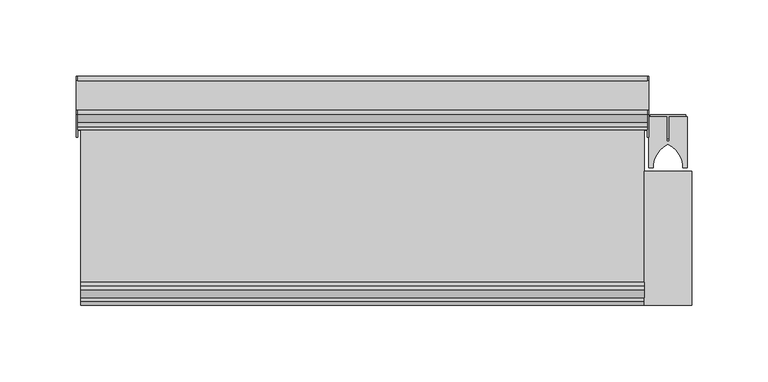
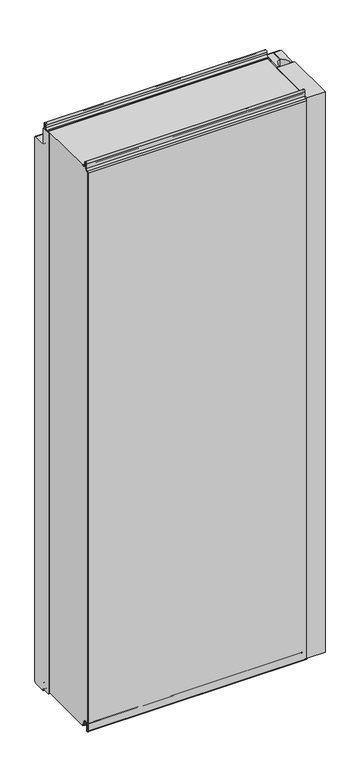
"""IFC4 building model written with IfcOpenShell, lengths in millimetres: plate geometry, Fronttop : Fronttop 150/1000."""

from ifc_helpers import new_model, si_unit, point, frame, frame_2d, origin, origin_with_axes, place, context, project, spatial, polyline, circle_curve, trimmed, segment, composite_curve, outline, extrude, source, transform, mapped, element, save
from ifc_brep_helpers import plane_surface, cylinder_surface, revolved_surface, advanced_brep


def plate_139f4f7c(model_context):
    return source(origin(), model_context, "Body", "SolidModel", [
        advanced_brep(
        [(-186.5, 124.0, 1008.0), (-186.5, 121.0, 1008.0), (-186.5, 121.0, 1004.0), (-186.5, 117.0, 1000.0), (-186.5, 115.0, 1000.0), (-186.5, 115.0, 1001.0), (-186.5, 117.0, 1001.0), (-186.5, 120.0, 1004.0), (-186.5, 120.0, 1008.0), (-186.5, 125.0, 1008.0), (-186.5, 125.0, 1000.0), (-186.5, 124.0, 1000.0), (186.5, 125.0, 1008.0), (186.5, 120.0, 1008.0), (186.5, 120.0, 1004.0), (186.5, 117.0, 1001.0), (186.5, 115.0, 1001.0), (186.5, 115.0, 1000.0), (186.5, 117.0, 1000.0), (186.5, 121.0, 1004.0), (186.5, 121.0, 1008.0), (186.5, 124.0, 1008.0), (186.5, 124.0, 1000.0), (186.5, 125.0, 1000.0), (-186.5, 117.0, 2.0), (186.5, 117.0, 2.0), (186.5, 115.0, 2.0), (-186.5, 115.0, 2.0), (-186.5, 119.0, 4.0), (186.5, 119.0, 4.0), (-186.5, 119.0, 8.0), (186.5, 119.0, 8.0), (-186.5, 126.0, 8.0), (186.5, 126.0, 8.0), (-186.5, 126.0, 0.0), (186.5, 126.0, 0.0), (-186.5, 129.0, -3.0), (186.5, 129.0, -3.0), (-186.5, 125.0, -3.0), (-187.5, 125.0, -3.0), (-187.5, 147.0, -3.0), (-186.5, 147.0, -3.0), (186.5, 147.0, -3.0), (187.5, 147.0, -3.0), (187.5, 125.0, -3.0), (186.5, 125.0, -3.0), (-186.5, 150.0, 0.0), (186.5, 150.0, 0.0), (-187.5, 150.0, 0.0), (-187.5, 150.0, 969.0), (-186.5, 150.0, 969.0), (186.5, 150.0, 969.0), (187.5, 150.0, 969.0), (187.5, 150.0, 0.0), (-186.5, 147.0, 972.0), (186.5, 147.0, 972.0), (-187.5, 147.0, 972.0), (-187.5, 128.0, 972.0), (-186.5, 128.0, 972.0), (186.5, 128.0, 972.0), (187.5, 128.0, 972.0), (187.5, 147.0, 972.0), (-186.5, 125.0, 975.0), (186.5, 125.0, 975.0), (-187.5, 125.0, 975.0), (-187.5, 125.0, 1000.0), (187.5, 125.0, 1000.0), (187.5, 125.0, 975.0), (-186.5, 124.0, 975.0), (186.5, 124.0, 975.0), (-186.5, 128.0, 971.0), (186.5, 128.0, 971.0), (-186.5, 147.0, 971.0), (186.5, 147.0, 971.0), (-186.5, 149.0, 969.0), (186.5, 149.0, 969.0), (-186.5, 149.0, 0.0), (186.5, 149.0, 0.0), (-186.5, 147.0, -2.0), (186.5, 147.0, -2.0), (-186.5, 129.0, -2.0), (186.5, 129.0, -2.0), (-186.5, 127.0, 0.0), (186.5, 127.0, 0.0), (-186.5, 127.0, 8.0), (186.5, 127.0, 8.0), (-186.5, 118.0, 8.0), (186.5, 118.0, 8.0), (-186.5, 118.0, 4.0), (186.5, 118.0, 4.0), (-186.5, 117.0, 3.0), (186.5, 117.0, 3.0), (-186.5, 115.0, 3.0), (186.5, 115.0, 3.0), (187.5, 110.0, 1000.0), (187.5, 110.0, 0.0), (187.5, 125.0, 0.0), (186.5, 125.0, 0.0), (186.5, 110.0, 0.0), (186.5, 110.0, 1000.0), (-187.5, 125.0, 0.0), (-187.5, 110.0, 0.0), (-187.5, 110.0, 1000.0), (-186.5, 110.0, 1000.0), (-186.5, 110.0, 0.0), (-186.5, 125.0, 0.0)],
        [
            (0, 1, circle_curve(frame((-186.5, 122.5, 1008.0), z_axis=(1.0, 0.0, 0.0), x_axis=(0.0, -1.0, 0.0)), 1.5)),
            (1, 2),
            (2, 3, circle_curve(frame((-186.5, 117.0, 1004.0), z_axis=(-1.0, 0.0, 0.0), x_axis=(0.0, -1.0, 0.0)), 4.0)),
            (3, 4),
            (4, 5),
            (5, 6),
            (6, 7, circle_curve(frame((-186.5, 117.0, 1004.0), z_axis=(1.0, 0.0, 0.0), x_axis=(0.0, -1.0, 0.0)), 3.0)),
            (7, 8),
            (8, 9, circle_curve(frame((-186.5, 122.5, 1008.0), z_axis=(-1.0, 0.0, 0.0), x_axis=(0.0, -1.0, 0.0)), 2.5)),
            (9, 10),
            (10, 11),
            (11, 0),
            (12, 13, circle_curve(frame((186.5, 122.5, 1008.0), z_axis=(1.0, 0.0, 0.0), x_axis=(0.0, -1.0, 0.0)), 2.5)),
            (13, 14),
            (14, 15, circle_curve(frame((186.5, 117.0, 1004.0), z_axis=(-1.0, 0.0, 0.0), x_axis=(0.0, -1.0, 0.0)), 3.0)),
            (15, 16),
            (16, 17),
            (17, 18),
            (18, 19, circle_curve(frame((186.5, 117.0, 1004.0), z_axis=(1.0, 0.0, 0.0), x_axis=(0.0, -1.0, 0.0)), 4.0)),
            (19, 20),
            (20, 21, circle_curve(frame((186.5, 122.5, 1008.0), z_axis=(-1.0, 0.0, 0.0), x_axis=(0.0, -1.0, 0.0)), 1.5)),
            (21, 22),
            (22, 23),
            (23, 12),
            (24, 25),
            (25, 26),
            (26, 27),
            (27, 24),
            (24, 28, circle_curve(frame((-186.5, 117.0, 4.0), z_axis=(1.0, 0.0, 0.0), x_axis=(0.0, -1.0, 0.0)), 2.0)),
            (28, 29),
            (29, 25, circle_curve(frame((186.5, 117.0, 4.0), z_axis=(-1.0, 0.0, 0.0), x_axis=(0.0, -1.0, 0.0)), 2.0)),
            (28, 30),
            (30, 31),
            (31, 29),
            (30, 32, circle_curve(frame((-186.5, 122.5, 8.0), z_axis=(-1.0, 0.0, 0.0), x_axis=(0.0, -1.0, 0.0)), 3.5)),
            (32, 33),
            (33, 31, circle_curve(frame((186.5, 122.5, 8.0), z_axis=(1.0, 0.0, 0.0), x_axis=(0.0, -1.0, 0.0)), 3.5)),
            (32, 34),
            (34, 35),
            (35, 33),
            (34, 36, circle_curve(frame((-186.5, 129.0, 0.0), z_axis=(1.0, 0.0, 0.0), x_axis=(0.0, -1.0, 0.0)), 3.0)),
            (36, 37),
            (37, 35, circle_curve(frame((186.5, 129.0, 0.0), z_axis=(-1.0, 0.0, 0.0), x_axis=(0.0, -1.0, 0.0)), 3.0)),
            (36, 38),
            (38, 39),
            (39, 40),
            (40, 41),
            (41, 42),
            (42, 43),
            (43, 44),
            (44, 45),
            (45, 37),
            (41, 46, circle_curve(frame((-186.5, 147.0, 0.0), z_axis=(1.0, 0.0, 0.0), x_axis=(0.0, -1.0, 0.0)), 3.0)),
            (46, 47),
            (47, 42, circle_curve(frame((186.5, 147.0, 0.0), z_axis=(-1.0, 0.0, 0.0), x_axis=(0.0, -1.0, 0.0)), 3.0)),
            (46, 48),
            (48, 49),
            (49, 50),
            (50, 51),
            (51, 52),
            (52, 53),
            (53, 47),
            (50, 54, circle_curve(frame((-186.5, 147.0, 969.0), z_axis=(1.0, 0.0, 0.0), x_axis=(0.0, -1.0, 0.0)), 3.0)),
            (54, 55),
            (55, 51, circle_curve(frame((186.5, 147.0, 969.0), z_axis=(-1.0, 0.0, 0.0), x_axis=(0.0, -1.0, 0.0)), 3.0)),
            (54, 56),
            (56, 57),
            (57, 58),
            (58, 59),
            (59, 60),
            (60, 61),
            (61, 55),
            (58, 62, circle_curve(frame((-186.5, 128.0, 975.0), z_axis=(-1.0, 0.0, 0.0), x_axis=(0.0, -1.0, 0.0)), 3.0)),
            (62, 63),
            (63, 59, circle_curve(frame((186.5, 128.0, 975.0), z_axis=(1.0, 0.0, 0.0), x_axis=(0.0, -1.0, 0.0)), 3.0)),
            (62, 64),
            (64, 65),
            (65, 10),
            (9, 12),
            (23, 66),
            (66, 67),
            (67, 63),
            (8, 13),
            (7, 14),
            (6, 15),
            (5, 16),
            (4, 17),
            (4, 3),
            (3, 18),
            (18, 17),
            (2, 19),
            (1, 20),
            (0, 21),
            (11, 68),
            (68, 69),
            (69, 22),
            (68, 70, circle_curve(frame((-186.5, 128.0, 975.0), z_axis=(1.0, 0.0, 0.0), x_axis=(0.0, -1.0, 0.0)), 4.0)),
            (70, 71),
            (71, 69, circle_curve(frame((186.5, 128.0, 975.0), z_axis=(-1.0, 0.0, 0.0), x_axis=(0.0, -1.0, 0.0)), 4.0)),
            (70, 72),
            (72, 73),
            (73, 71),
            (72, 74, circle_curve(frame((-186.5, 147.0, 969.0), z_axis=(-1.0, 0.0, 0.0), x_axis=(0.0, -1.0, 0.0)), 2.0)),
            (74, 75),
            (75, 73, circle_curve(frame((186.5, 147.0, 969.0), z_axis=(1.0, 0.0, 0.0), x_axis=(0.0, -1.0, 0.0)), 2.0)),
            (74, 76),
            (76, 77),
            (77, 75),
            (76, 78, circle_curve(frame((-186.5, 147.0, 0.0), z_axis=(-1.0, 0.0, 0.0), x_axis=(0.0, -1.0, 0.0)), 2.0)),
            (78, 79),
            (79, 77, circle_curve(frame((186.5, 147.0, 0.0), z_axis=(1.0, 0.0, 0.0), x_axis=(0.0, -1.0, 0.0)), 2.0)),
            (78, 80),
            (80, 81),
            (81, 79),
            (80, 82, circle_curve(frame((-186.5, 129.0, 0.0), z_axis=(-1.0, 0.0, 0.0), x_axis=(0.0, -1.0, 0.0)), 2.0)),
            (82, 83),
            (83, 81, circle_curve(frame((186.5, 129.0, 0.0), z_axis=(1.0, 0.0, 0.0), x_axis=(0.0, -1.0, 0.0)), 2.0)),
            (82, 84),
            (84, 85),
            (85, 83),
            (84, 86, circle_curve(frame((-186.5, 122.5, 8.0), z_axis=(1.0, 0.0, 0.0), x_axis=(0.0, -1.0, 0.0)), 4.5)),
            (86, 87),
            (87, 85, circle_curve(frame((186.5, 122.5, 8.0), z_axis=(-1.0, 0.0, 0.0), x_axis=(0.0, -1.0, 0.0)), 4.5)),
            (86, 88),
            (88, 89),
            (89, 87),
            (88, 90, circle_curve(frame((-186.5, 117.0, 4.0), z_axis=(-1.0, 0.0, 0.0), x_axis=(0.0, -1.0, 0.0)), 1.0)),
            (90, 91),
            (91, 89, circle_curve(frame((186.5, 117.0, 4.0), z_axis=(1.0, 0.0, 0.0), x_axis=(0.0, -1.0, 0.0)), 1.0)),
            (90, 92),
            (92, 93),
            (93, 91),
            (26, 93),
            (92, 27),
            (66, 94),
            (94, 95),
            (95, 96),
            (96, 44),
            (43, 53, circle_curve(frame((187.5, 147.0, 0.0), z_axis=(1.0, 0.0, 0.0), x_axis=(0.0, 1.0, 0.0)), 3.0)),
            (52, 61, circle_curve(frame((187.5, 147.0, 969.0), z_axis=(1.0, 0.0, 0.0), x_axis=(0.0, 1.0, 0.0)), 3.0)),
            (60, 67, circle_curve(frame((187.5, 128.0, 975.0), z_axis=(-1.0, 0.0, 0.0), x_axis=(0.0, 1.0, 0.0)), 3.0)),
            (45, 97),
            (97, 98),
            (98, 99),
            (99, 17),
            (18, 22),
            (99, 94),
            (98, 95),
            (97, 96),
            (64, 57, circle_curve(frame((-187.5, 128.0, 975.0), z_axis=(1.0, 0.0, 0.0), x_axis=(0.0, 1.0, 0.0)), 3.0)),
            (56, 49, circle_curve(frame((-187.5, 147.0, 969.0), z_axis=(-1.0, 0.0, 0.0), x_axis=(0.0, 1.0, 0.0)), 3.0)),
            (48, 40, circle_curve(frame((-187.5, 147.0, 0.0), z_axis=(-1.0, 0.0, 0.0), x_axis=(0.0, 1.0, 0.0)), 3.0)),
            (39, 100),
            (100, 101),
            (101, 102),
            (102, 65),
            (103, 104),
            (104, 105),
            (105, 38),
            (11, 3),
            (4, 103),
            (102, 103),
            (101, 104),
            (100, 105),
        ],
        [
            plane_surface(frame((-186.5, 0.0, 0.0), z_axis=(-1.0, 0.0, 0.0), x_axis=(0.0, 0.0, 1.0))),
            plane_surface(frame((186.5, 0.0, 0.0), z_axis=(1.0, 0.0, 0.0), x_axis=(0.0, 0.0, 1.0))),
            plane_surface(frame((-186.5, 117.0, 2.0), z_axis=(0.0, 0.0, -1.0), x_axis=(1.0, 0.0, 0.0))),
            cylinder_surface(frame((-186.5, 117.0, 4.0), z_axis=(-1.0, 0.0, 0.0), x_axis=(0.0, -1.0, 0.0)), 2.0),
            plane_surface(frame((-186.5, 119.0, 8.0), z_axis=(0.0, 1.0, 0.0), x_axis=(1.0, 0.0, 0.0))),
            revolved_surface(polyline([(186.5, 119.0, 8.0), (-186.5, 119.0, 8.0)]), (-186.5, 122.5, 8.0), (1.0, 0.0, 0.0)),
            plane_surface(frame((-186.5, 126.0, 0.0), z_axis=(0.0, -1.0, 0.0), x_axis=(1.0, 0.0, 0.0))),
            cylinder_surface(frame((-186.5, 129.0, 0.0), z_axis=(-1.0, 0.0, 0.0), x_axis=(0.0, -1.0, 0.0)), 3.0),
            plane_surface(frame((-186.5, 147.0, -3.0), z_axis=(0.0, 0.0, -1.0), x_axis=(1.0, 0.0, 0.0))),
            cylinder_surface(frame((-186.5, 147.0, 0.0), z_axis=(-1.0, 0.0, 0.0), x_axis=(0.0, -1.0, 0.0)), 3.0),
            plane_surface(frame((-186.5, 150.0, 969.0), z_axis=(0.0, 1.0, 0.0), x_axis=(1.0, 0.0, 0.0))),
            cylinder_surface(frame((-186.5, 147.0, 969.0), z_axis=(-1.0, 0.0, 0.0), x_axis=(0.0, -1.0, 0.0)), 3.0),
            plane_surface(frame((-186.5, 128.0, 972.0), z_axis=(0.0, 0.0, 1.0), x_axis=(1.0, 0.0, 0.0))),
            revolved_surface(polyline([(186.5, 125.0, 975.0), (-186.5, 125.0, 975.0)]), (-186.5, 128.0, 975.0), (1.0, 0.0, 0.0)),
            plane_surface(frame((-186.5, 125.0, 1008.0), z_axis=(0.0, 1.0, 0.0), x_axis=(1.0, 0.0, 0.0))),
            cylinder_surface(frame((-186.5, 122.5, 1008.0), z_axis=(-1.0, 0.0, 0.0), x_axis=(0.0, -1.0, 0.0)), 2.5),
            plane_surface(frame((-186.5, 120.0, 1004.0), z_axis=(0.0, -1.0, 0.0), x_axis=(1.0, 0.0, 0.0))),
            revolved_surface(polyline([(186.5, 114.0, 1004.0), (-186.5, 114.0, 1004.0)]), (-186.5, 117.0, 1004.0), (1.0, 0.0, 0.0)),
            plane_surface(frame((-186.5, 115.0, 1001.0), z_axis=(0.0, 0.0, 1.0), x_axis=(1.0, 0.0, 0.0))),
            plane_surface(frame((-186.5, 115.0, 1000.0), z_axis=(0.0, -1.0, 0.0), x_axis=(1.0, 0.0, 0.0))),
            plane_surface(frame((-186.5, 117.0, 1000.0), z_axis=(0.0, 0.0, -1.0), x_axis=(1.0, 0.0, 0.0))),
            cylinder_surface(frame((-186.5, 117.0, 1004.0), z_axis=(-1.0, 0.0, 0.0), x_axis=(0.0, -1.0, 0.0)), 4.0),
            plane_surface(frame((-186.5, 121.0, 1008.0), z_axis=(0.0, 1.0, 0.0), x_axis=(1.0, 0.0, 0.0))),
            revolved_surface(polyline([(186.5, 121.0, 1008.0), (-186.5, 121.0, 1008.0)]), (-186.5, 122.5, 1008.0), (1.0, 0.0, 0.0)),
            plane_surface(frame((-186.5, 124.0, 975.0), z_axis=(0.0, -1.0, 0.0), x_axis=(1.0, 0.0, 0.0))),
            cylinder_surface(frame((-186.5, 128.0, 975.0), z_axis=(-1.0, 0.0, 0.0), x_axis=(0.0, -1.0, 0.0)), 4.0),
            plane_surface(frame((-186.5, 147.0, 971.0), z_axis=(0.0, 0.0, -1.0), x_axis=(1.0, 0.0, 0.0))),
            revolved_surface(polyline([(186.5, 145.0, 969.0), (-186.5, 145.0, 969.0)]), (-186.5, 147.0, 969.0), (1.0, 0.0, 0.0)),
            plane_surface(frame((-186.5, 149.0, 0.0), z_axis=(0.0, -1.0, 0.0), x_axis=(1.0, 0.0, 0.0))),
            revolved_surface(polyline([(186.5, 145.0, 0.0), (-186.5, 145.0, 0.0)]), (-186.5, 147.0, 0.0), (1.0, 0.0, 0.0)),
            plane_surface(frame((-186.5, 129.0, -2.0), z_axis=(0.0, 0.0, 1.0), x_axis=(1.0, 0.0, 0.0))),
            revolved_surface(polyline([(186.5, 127.0, 0.0), (-186.5, 127.0, 0.0)]), (-186.5, 129.0, 0.0), (1.0, 0.0, 0.0)),
            plane_surface(frame((-186.5, 127.0, 8.0), z_axis=(0.0, 1.0, 0.0), x_axis=(1.0, 0.0, 0.0))),
            cylinder_surface(frame((-186.5, 122.5, 8.0), z_axis=(-1.0, 0.0, 0.0), x_axis=(0.0, -1.0, 0.0)), 4.5),
            plane_surface(frame((-186.5, 118.0, 4.0), z_axis=(0.0, -1.0, 0.0), x_axis=(1.0, 0.0, 0.0))),
            revolved_surface(polyline([(186.5, 116.0, 4.0), (-186.5, 116.0, 4.0)]), (-186.5, 117.0, 4.0), (1.0, 0.0, 0.0)),
            plane_surface(frame((-186.5, 115.0, 3.0), z_axis=(0.0, 0.0, 1.0), x_axis=(1.0, 0.0, 0.0))),
            plane_surface(frame((-186.5, 115.0, 2.0), z_axis=(0.0, -1.0, 0.0), x_axis=(1.0, 0.0, 0.0))),
            plane_surface(frame((187.5, 125.0, 1000.0), z_axis=(1.0, 0.0, 0.0), x_axis=(0.0, -1.0, 0.0))),
            plane_surface(frame((186.5, 125.0, 1000.0), z_axis=(-1.0, 0.0, 0.0), x_axis=(0.0, 1.0, 0.0))),
            plane_surface(frame((187.5, 125.0, 1000.0), z_axis=(0.0, 0.0, 1.0), x_axis=(-1.0, 0.0, 0.0))),
            plane_surface(frame((187.5, 110.0, 1000.0), z_axis=(0.0, -1.0, 0.0), x_axis=(-1.0, 0.0, 0.0))),
            plane_surface(frame((187.5, 110.0, 0.0), z_axis=(0.0, 0.0, -1.0), x_axis=(-1.0, 0.0, 0.0))),
            cylinder_surface(frame((186.5, 147.0, 0.0), z_axis=(1.0, 0.0, 0.0), x_axis=(0.0, 1.0, 0.0)), 3.0),
            cylinder_surface(frame((186.5, 147.0, 969.0), z_axis=(1.0, 0.0, 0.0), x_axis=(0.0, 1.0, 0.0)), 3.0),
            revolved_surface(polyline([(186.5, 131.0, 975.0), (187.5, 131.0, 975.0)]), (186.5, 128.0, 975.0), (-1.0, 0.0, 0.0)),
            plane_surface(frame((-187.5, 125.0, 1000.0), z_axis=(-1.0, 0.0, 0.0), x_axis=(0.0, 1.0, 0.0))),
            plane_surface(frame((-186.5, 125.0, 1000.0), z_axis=(1.0, 0.0, 0.0), x_axis=(0.0, -1.0, 0.0))),
            plane_surface(frame((-186.5, 125.0, 1000.0), z_axis=(0.0, 0.0, 1.0), x_axis=(-1.0, 0.0, 0.0))),
            plane_surface(frame((-186.5, 110.0, 1000.0), z_axis=(0.0, -1.0, 0.0), x_axis=(-1.0, 0.0, 0.0))),
            plane_surface(frame((-186.5, 110.0, 0.0), z_axis=(0.0, 0.0, -1.0), x_axis=(-1.0, 0.0, 0.0))),
            cylinder_surface(frame((-187.5, 147.0, 0.0), z_axis=(1.0, 0.0, 0.0), x_axis=(0.0, 1.0, 0.0)), 3.0),
            cylinder_surface(frame((-187.5, 147.0, 969.0), z_axis=(1.0, 0.0, 0.0), x_axis=(0.0, 1.0, 0.0)), 3.0),
            revolved_surface(polyline([(-187.5, 131.0, 975.0), (-186.5, 131.0, 975.0)]), (-187.5, 128.0, 975.0), (-1.0, 0.0, 0.0)),
            plane_surface(frame((187.5, 125.0, 0.0), z_axis=(0.0, -1.0, 0.0), x_axis=(-1.0, 0.0, 0.0))),
            plane_surface(frame((-186.5, 125.0, 0.0), z_axis=(0.0, -1.0, 0.0), x_axis=(-1.0, 0.0, 0.0))),
        ],
        [
            (0, [[1, 2, 3, 4, 5, 6, 7, 8, 9, 10, 11, 12]]),
            (1, [[13, 14, 15, 16, 17, 18, 19, 20, 21, 22, 23, 24]]),
            (2, [[25, 26, 27, 28]]),
            (3, [[-25, 29, 30, 31]]),
            (4, [[-30, 32, 33, 34]]),
            (5, [[-33, 35, 36, 37]]),
            (6, [[-36, 38, 39, 40]]),
            (7, [[-39, 41, 42, 43]]),
            (8, [[-42, 44, 45, 46, 47, 48, 49, 50, 51, 52]]),
            (9, [[-48, 53, 54, 55]]),
            (10, [[-54, 56, 57, 58, 59, 60, 61, 62]]),
            (11, [[-59, 63, 64, 65]]),
            (12, [[-64, 66, 67, 68, 69, 70, 71, 72]]),
            (13, [[-69, 73, 74, 75]]),
            (14, [[-74, 76, 77, 78, -10, 79, -24, 80, 81, 82]]),
            (15, [[-9, 83, -13, -79]]),
            (16, [[-8, 84, -14, -83]]),
            (17, [[-7, 85, -15, -84]]),
            (18, [[-6, 86, -16, -85]]),
            (19, [[-5, 87, -17, -86]]),
            (20, [[-87, 88, 89, 90]]),
            (21, [[-3, 91, -19, -89]]),
            (22, [[-2, 92, -20, -91]]),
            (23, [[-1, 93, -21, -92]]),
            (24, [[-93, -12, 94, 95, 96, -22]]),
            (25, [[-95, 97, 98, 99]]),
            (26, [[-98, 100, 101, 102]]),
            (27, [[-101, 103, 104, 105]]),
            (28, [[-104, 106, 107, 108]]),
            (29, [[-107, 109, 110, 111]]),
            (30, [[-110, 112, 113, 114]]),
            (31, [[-113, 115, 116, 117]]),
            (32, [[-116, 118, 119, 120]]),
            (33, [[-119, 121, 122, 123]]),
            (34, [[-122, 124, 125, 126]]),
            (35, [[-125, 127, 128, 129]]),
            (36, [[-128, 130, 131, 132]]),
            (37, [[-27, 133, -131, 134]]),
            (38, [[135, 136, 137, 138, -50, 139, -61, 140, -71, 141, -81]]),
            (39, [[142, 143, 144, 145, -90, 146, -96, -99, -102, -105, -108, -111, -114, -117, -120, -123, -126, -129, -132, -133, -26, -31, -34, -37, -40, -43, -52]]),
            (40, [[-135, -80, -23, -146, -18, -145, 147]]),
            (41, [[-136, -147, -144, 148]]),
            (42, [[-137, -148, -143, 149]]),
            (43, [[-139, -49, -55, -62]]),
            (44, [[-140, -60, -65, -72]]),
            (45, [[-141, -70, -75, -82]]),
            (46, [[-77, 150, -67, 151, -57, 152, -46, 153, 154, 155, 156]]),
            (47, [[157, 158, 159, -44, -41, -38, -35, -32, -29, -28, -134, -130, -127, -124, -121, -118, -115, -112, -109, -106, -103, -100, -97, -94, 160, -88, 161]]),
            (48, [[-156, 162, -161, -4, -160, -11, -78]]),
            (49, [[-155, 163, -157, -162]]),
            (50, [[-154, 164, -158, -163]]),
            (51, [[-152, -56, -53, -47]]),
            (52, [[-151, -66, -63, -58]]),
            (53, [[-150, -76, -73, -68]]),
            (54, [[-138, -149, -142, -51]]),
            (55, [[-153, -45, -159, -164]]),
        ],
    ),
        extrude(outline(composite_curve([segment(polyline([(187.4998455, 123.5), (199.25, 123.5), (199.25, 107.5), (200.75, 107.5), (200.75, 123.5), (212.5001545, 123.5), (212.5001545, 90.0), (209.75, 90.0), (209.75, 92.5)]), True, "CONTINUOUS"), segment(trimmed(circle_curve(frame_2d((191.9661979, 89.3183984)), 18.0661619), [point((209.75, 92.5))], [point((200.0, 105.5))], True, "CARTESIAN"), True, "CONTINUOUS"), segment(trimmed(circle_curve(frame_2d((208.0338021, 89.3183984)), 18.0661619), [point((200.0, 105.5))], [point((190.25, 92.5))], True, "CARTESIAN"), True, "CONTINUOUS"), segment(polyline([(190.25, 92.5), (190.25, 90.0), (187.4998455, 90.0), (187.4998455, 123.5)]), True, "CONTINUOUS")], self_intersect=False)), origin_with_axes(), (0.0, 0.0, 1.0), 1000.0),
        extrude(outline(polyline([(215.5, 0.0), (184.5, 0.0), (184.5, 88.0), (215.5, 88.0), (215.5, 0.0)])), origin_with_axes(), (0.0, 0.0, 1.0), 1000.0),
        extrude(outline(polyline([(188.4948846, 125.0), (211.5051154, 125.0), (211.5051154, 123.5), (200.6502496, 123.5), (200.6502496, 109.0759655), (199.35, 109.0759655), (199.35, 123.5), (188.4948846, 123.5), (188.4948846, 125.0)])), origin_with_axes(), (0.0, 0.0, 1.0), 1000.0),
        advanced_brep(
        [(-184.5, 13.0, 1001.0), (-184.5, 15.0, 1001.0), (-184.5, 15.0, 1000.0), (-184.5, 13.0, 1000.0), (-184.5, 9.0, 1004.0), (-184.5, 9.0, 1008.0), (-184.5, 6.0, 1008.0), (-184.5, 6.0, 999.5), (-184.5, 2.1134897, 996.0214069), (-184.5, 1.0, 995.0), (-184.5, 1.0, -0.5), (-184.5, 3.0, -0.5), (-184.5, 3.0, 8.0), (-184.5, 12.0, 8.0), (-184.5, 12.0, 4.0), (-184.5, 13.0, 3.0), (-184.5, 15.0, 3.0), (-184.5, 15.0, 2.0), (-184.5, 13.0, 2.0), (-184.5, 11.0, 4.0), (-184.5, 11.0, 8.0), (-184.5, 4.0, 8.0), (-184.5, 4.0, -0.5), (-184.5, 0.0, -0.5), (-184.5, 0.0, 995.0), (-184.5, 2.220863, 996.9877675), (-184.5, 5.0, 999.5), (-184.5, 5.0, 1008.0), (-184.5, 10.0, 1008.0), (-184.5, 10.0, 1004.0), (184.5, 13.0, 1001.0), (184.5, 10.0, 1004.0), (184.5, 10.0, 1008.0), (184.5, 5.0, 1008.0), (184.5, 5.0, 999.5), (184.5, 2.2239212, 997.0152907), (184.5, 0.0, 995.0), (184.5, 0.0, -0.5), (184.5, 4.0, -0.5), (184.5, 4.0, 8.0), (184.5, 11.0, 8.0), (184.5, 11.0, 4.0), (184.5, 13.0, 2.0), (184.5, 15.0, 2.0), (184.5, 15.0, 3.0), (184.5, 13.0, 3.0), (184.5, 12.0, 4.0), (184.5, 12.0, 8.0), (184.5, 3.0, 8.0), (184.5, 3.0, -0.5), (184.5, 1.0, -0.5), (184.5, 1.0, 995.0), (184.5, 2.1104315, 995.9938837), (184.5, 6.0, 999.5), (184.5, 6.0, 1008.0), (184.5, 9.0, 1008.0), (184.5, 9.0, 1004.0), (184.5, 13.0, 1000.0), (184.5, 15.0, 1000.0), (184.5, 15.0, 1001.0)],
        [
            (0, 1),
            (1, 2),
            (2, 3),
            (3, 4, circle_curve(frame((-184.5, 13.0, 1004.0), z_axis=(-1.0, 0.0, 0.0), x_axis=(0.0, -1.0, 0.0)), 4.0)),
            (4, 5),
            (5, 6, circle_curve(frame((-184.5, 7.5, 1008.0), z_axis=(1.0, 0.0, 0.0), x_axis=(0.0, -1.0, 0.0)), 1.5)),
            (6, 7),
            (7, 8, circle_curve(frame((-184.5, 2.5, 999.5), z_axis=(-1.0, 0.0, 0.0), x_axis=(0.0, -1.0, 0.0)), 3.5)),
            (8, 9, circle_curve(frame((-184.5, 2.0, 995.0), z_axis=(1.0, 0.0, 0.0), x_axis=(0.0, -1.0, 0.0)), 1.0)),
            (9, 10),
            (10, 11, circle_curve(frame((-184.5, 2.0, -0.5), z_axis=(1.0, 0.0, 0.0), x_axis=(0.0, -1.0, 0.0)), 1.0)),
            (11, 12),
            (12, 13, circle_curve(frame((-184.5, 7.5, 8.0), z_axis=(-1.0, 0.0, 0.0), x_axis=(0.0, -1.0, 0.0)), 4.5)),
            (13, 14),
            (14, 15, circle_curve(frame((-184.5, 13.0, 4.0), z_axis=(1.0, 0.0, 0.0), x_axis=(0.0, -1.0, 0.0)), 1.0)),
            (15, 16),
            (16, 17),
            (17, 18),
            (18, 19, circle_curve(frame((-184.5, 13.0, 4.0), z_axis=(-1.0, 0.0, 0.0), x_axis=(0.0, -1.0, 0.0)), 2.0)),
            (19, 20),
            (20, 21, circle_curve(frame((-184.5, 7.5, 8.0), z_axis=(1.0, 0.0, 0.0), x_axis=(0.0, -1.0, 0.0)), 3.5)),
            (21, 22),
            (22, 23, circle_curve(frame((-184.5, 2.0, -0.5), z_axis=(-1.0, 0.0, 0.0), x_axis=(0.0, -1.0, 0.0)), 2.0)),
            (23, 24),
            (24, 25, circle_curve(frame((-184.5, 2.0, 995.0), z_axis=(-1.0, 0.0, 0.0), x_axis=(0.0, -1.0, 0.0)), 2.0)),
            (25, 26, circle_curve(frame((-184.5, 2.5, 999.5), z_axis=(1.0, 0.0, 0.0), x_axis=(0.0, -1.0, 0.0)), 2.5)),
            (26, 27),
            (27, 28, circle_curve(frame((-184.5, 7.5, 1008.0), z_axis=(-1.0, 0.0, 0.0), x_axis=(0.0, -1.0, 0.0)), 2.5)),
            (28, 29),
            (29, 0, circle_curve(frame((-184.5, 13.0, 1004.0), z_axis=(1.0, 0.0, 0.0), x_axis=(0.0, -1.0, 0.0)), 3.0)),
            (30, 31, circle_curve(frame((184.5, 13.0, 1004.0), z_axis=(-1.0, 0.0, 0.0), x_axis=(0.0, -1.0, 0.0)), 3.0)),
            (31, 32),
            (32, 33, circle_curve(frame((184.5, 7.5, 1008.0), z_axis=(1.0, 0.0, 0.0), x_axis=(0.0, -1.0, 0.0)), 2.5)),
            (33, 34),
            (34, 35, circle_curve(frame((184.5, 2.5, 999.5), z_axis=(-1.0, 0.0, 0.0), x_axis=(0.0, -1.0, 0.0)), 2.5)),
            (35, 36, circle_curve(frame((184.5, 2.0, 995.0), z_axis=(1.0, 0.0, 0.0), x_axis=(0.0, -1.0, 0.0)), 2.0)),
            (36, 37),
            (37, 38, circle_curve(frame((184.5, 2.0, -0.5), z_axis=(1.0, 0.0, 0.0), x_axis=(0.0, -1.0, 0.0)), 2.0)),
            (38, 39),
            (39, 40, circle_curve(frame((184.5, 7.5, 8.0), z_axis=(-1.0, 0.0, 0.0), x_axis=(0.0, -1.0, 0.0)), 3.5)),
            (40, 41),
            (41, 42, circle_curve(frame((184.5, 13.0, 4.0), z_axis=(1.0, 0.0, 0.0), x_axis=(0.0, -1.0, 0.0)), 2.0)),
            (42, 43),
            (43, 44),
            (44, 45),
            (45, 46, circle_curve(frame((184.5, 13.0, 4.0), z_axis=(-1.0, 0.0, 0.0), x_axis=(0.0, -1.0, 0.0)), 1.0)),
            (46, 47),
            (47, 48, circle_curve(frame((184.5, 7.5, 8.0), z_axis=(1.0, 0.0, 0.0), x_axis=(0.0, -1.0, 0.0)), 4.5)),
            (48, 49),
            (49, 50, circle_curve(frame((184.5, 2.0, -0.5), z_axis=(-1.0, 0.0, 0.0), x_axis=(0.0, -1.0, 0.0)), 1.0)),
            (50, 51),
            (51, 52, circle_curve(frame((184.5, 2.0, 995.0), z_axis=(-1.0, 0.0, 0.0), x_axis=(0.0, -1.0, 0.0)), 1.0)),
            (52, 53, circle_curve(frame((184.5, 2.5, 999.5), z_axis=(1.0, 0.0, 0.0), x_axis=(0.0, -1.0, 0.0)), 3.5)),
            (53, 54),
            (54, 55, circle_curve(frame((184.5, 7.5, 1008.0), z_axis=(-1.0, 0.0, 0.0), x_axis=(0.0, -1.0, 0.0)), 1.5)),
            (55, 56),
            (56, 57, circle_curve(frame((184.5, 13.0, 1004.0), z_axis=(1.0, 0.0, 0.0), x_axis=(0.0, -1.0, 0.0)), 4.0)),
            (57, 58),
            (58, 59),
            (59, 30),
            (0, 30),
            (59, 1),
            (58, 2),
            (57, 3),
            (56, 4),
            (55, 5),
            (54, 6),
            (53, 7),
            (52, 8),
            (51, 9),
            (50, 10),
            (49, 11),
            (48, 12),
            (47, 13),
            (46, 14),
            (45, 15),
            (44, 16),
            (43, 17),
            (42, 18),
            (41, 19),
            (40, 20),
            (39, 21),
            (38, 22),
            (37, 23),
            (36, 24),
            (35, 25),
            (34, 26),
            (33, 27),
            (32, 28),
            (31, 29),
        ],
        [
            plane_surface(frame((-184.5, 0.0, 0.0), z_axis=(-1.0, 0.0, 0.0), x_axis=(0.0, 0.0, 1.0))),
            plane_surface(frame((184.5, 0.0, 0.0), z_axis=(1.0, 0.0, 0.0), x_axis=(0.0, 0.0, 1.0))),
            plane_surface(frame((-184.5, 13.0, 1001.0), z_axis=(0.0, 0.0, 1.0), x_axis=(1.0, 0.0, 0.0))),
            plane_surface(frame((-184.5, 15.0, 1001.0), z_axis=(0.0, 1.0, 0.0), x_axis=(1.0, 0.0, 0.0))),
            plane_surface(frame((-184.5, 15.0, 1000.0), z_axis=(0.0, 0.0, -1.0), x_axis=(1.0, 0.0, 0.0))),
            cylinder_surface(frame((-184.5, 13.0, 1004.0), z_axis=(-1.0, 0.0, 0.0), x_axis=(0.0, -1.0, 0.0)), 4.0),
            plane_surface(frame((-184.5, 9.0, 1004.0), z_axis=(0.0, -1.0, 0.0), x_axis=(1.0, 0.0, 0.0))),
            revolved_surface(polyline([(184.5, 6.0, 1008.0), (-184.5, 6.0, 1008.0)]), (-184.5, 7.5, 1008.0), (1.0, 0.0, 0.0)),
            plane_surface(frame((-184.5, 6.0, 1008.0), z_axis=(0.0, 1.0, 0.0), x_axis=(1.0, 0.0, 0.0))),
            cylinder_surface(frame((-184.5, 2.5, 999.5), z_axis=(-1.0, 0.0, 0.0), x_axis=(0.0, -1.0, 0.0)), 3.5),
            revolved_surface(polyline([(184.5, 1.0, 995.0), (-184.5, 1.0, 995.0)]), (-184.5, 2.0, 995.0), (1.0, 0.0, 0.0)),
            plane_surface(frame((-184.5, 1.0, 995.0), z_axis=(0.0, 1.0, 0.0), x_axis=(1.0, 0.0, 0.0))),
            revolved_surface(polyline([(184.5, 1.0, -0.5), (-184.5, 1.0, -0.5)]), (-184.5, 2.0, -0.5), (1.0, 0.0, 0.0)),
            plane_surface(frame((-184.5, 3.0, -0.5), z_axis=(0.0, -1.0, 0.0), x_axis=(1.0, 0.0, 0.0))),
            cylinder_surface(frame((-184.5, 7.5, 8.0), z_axis=(-1.0, 0.0, 0.0), x_axis=(0.0, -1.0, 0.0)), 4.5),
            plane_surface(frame((-184.5, 12.0, 8.0), z_axis=(0.0, 1.0, 0.0), x_axis=(1.0, 0.0, 0.0))),
            revolved_surface(polyline([(184.5, 12.0, 4.0), (-184.5, 12.0, 4.0)]), (-184.5, 13.0, 4.0), (1.0, 0.0, 0.0)),
            plane_surface(frame((-184.5, 13.0, 3.0), z_axis=(0.0, 0.0, 1.0), x_axis=(1.0, 0.0, 0.0))),
            plane_surface(frame((-184.5, 15.0, 3.0), z_axis=(0.0, 1.0, 0.0), x_axis=(1.0, 0.0, 0.0))),
            plane_surface(frame((-184.5, 15.0, 2.0), z_axis=(0.0, 0.0, -1.0), x_axis=(1.0, 0.0, 0.0))),
            cylinder_surface(frame((-184.5, 13.0, 4.0), z_axis=(-1.0, 0.0, 0.0), x_axis=(0.0, -1.0, 0.0)), 2.0),
            plane_surface(frame((-184.5, 11.0, 4.0), z_axis=(0.0, -1.0, 0.0), x_axis=(1.0, 0.0, 0.0))),
            revolved_surface(polyline([(184.5, 4.0, 8.0), (-184.5, 4.0, 8.0)]), (-184.5, 7.5, 8.0), (1.0, 0.0, 0.0)),
            plane_surface(frame((-184.5, 4.0, 8.0), z_axis=(0.0, 1.0, 0.0), x_axis=(1.0, 0.0, 0.0))),
            cylinder_surface(frame((-184.5, 2.0, -0.5), z_axis=(-1.0, 0.0, 0.0), x_axis=(0.0, -1.0, 0.0)), 2.0),
            plane_surface(frame((-184.5, 0.0, -0.5), z_axis=(0.0, -1.0, 0.0), x_axis=(1.0, 0.0, 0.0))),
            cylinder_surface(frame((-184.5, 2.0, 995.0), z_axis=(-1.0, 0.0, 0.0), x_axis=(0.0, -1.0, 0.0)), 2.0),
            revolved_surface(polyline([(184.5, 0.0, 999.5), (-184.5, 0.0, 999.5)]), (-184.5, 2.5, 999.5), (1.0, 0.0, 0.0)),
            plane_surface(frame((-184.5, 5.0, 999.5), z_axis=(0.0, -1.0, 0.0), x_axis=(1.0, 0.0, 0.0))),
            cylinder_surface(frame((-184.5, 7.5, 1008.0), z_axis=(-1.0, 0.0, 0.0), x_axis=(0.0, -1.0, 0.0)), 2.5),
            plane_surface(frame((-184.5, 10.0, 1008.0), z_axis=(0.0, 1.0, 0.0), x_axis=(1.0, 0.0, 0.0))),
            revolved_surface(polyline([(184.5, 10.0, 1004.0), (-184.5, 10.0, 1004.0)]), (-184.5, 13.0, 1004.0), (1.0, 0.0, 0.0)),
        ],
        [
            (0, [[1, 2, 3, 4, 5, 6, 7, 8, 9, 10, 11, 12, 13, 14, 15, 16, 17, 18, 19, 20, 21, 22, 23, 24, 25, 26, 27, 28, 29, 30]]),
            (1, [[31, 32, 33, 34, 35, 36, 37, 38, 39, 40, 41, 42, 43, 44, 45, 46, 47, 48, 49, 50, 51, 52, 53, 54, 55, 56, 57, 58, 59, 60]]),
            (2, [[-1, 61, -60, 62]]),
            (3, [[-2, -62, -59, 63]]),
            (4, [[-3, -63, -58, 64]]),
            (5, [[-4, -64, -57, 65]]),
            (6, [[-5, -65, -56, 66]]),
            (7, [[-6, -66, -55, 67]]),
            (8, [[-7, -67, -54, 68]]),
            (9, [[-8, -68, -53, 69]]),
            (10, [[-9, -69, -52, 70]]),
            (11, [[-10, -70, -51, 71]]),
            (12, [[-11, -71, -50, 72]]),
            (13, [[-12, -72, -49, 73]]),
            (14, [[-13, -73, -48, 74]]),
            (15, [[-14, -74, -47, 75]]),
            (16, [[-15, -75, -46, 76]]),
            (17, [[-16, -76, -45, 77]]),
            (18, [[-17, -77, -44, 78]]),
            (19, [[-18, -78, -43, 79]]),
            (20, [[-19, -79, -42, 80]]),
            (21, [[-20, -80, -41, 81]]),
            (22, [[-21, -81, -40, 82]]),
            (23, [[-22, -82, -39, 83]]),
            (24, [[-23, -83, -38, 84]]),
            (25, [[-24, -84, -37, 85]]),
            (26, [[-25, -85, -36, 86]]),
            (27, [[-26, -86, -35, 87]]),
            (28, [[-27, -87, -34, 88]]),
            (29, [[-28, -88, -33, 89]]),
            (30, [[-29, -89, -32, 90]]),
            (31, [[-30, -90, -31, -61]]),
        ],
    ),
        extrude(outline(composite_curve([segment(polyline([(15.0, 3.0), (13.0, 3.0)]), True, "CONTINUOUS"), segment(trimmed(circle_curve(frame_2d((13.0, 4.0)), 1.0), [point((13.0, 3.0))], [point((12.0, 4.0))], False, "CARTESIAN"), True, "CONTINUOUS"), segment(polyline([(12.0, 4.0), (12.0, 8.0)]), True, "CONTINUOUS"), segment(trimmed(circle_curve(frame_2d((7.5, 8.0)), 4.5), [point((12.0, 8.0))], [point((3.0, 8.0))], True, "CARTESIAN"), True, "CONTINUOUS"), segment(polyline([(3.0, 8.0), (3.0, -0.5)]), True, "CONTINUOUS"), segment(trimmed(circle_curve(frame_2d((2.0, -0.5)), 1.0), [point((3.0, -0.5))], [point((1.0, -0.5))], False, "CARTESIAN"), True, "CONTINUOUS"), segment(polyline([(1.0, -0.5), (1.0, 995.0278643)]), True, "CONTINUOUS"), segment(trimmed(circle_curve(frame_2d((2.0, 995.0278643)), 1.0), [point((1.0, 995.0278643))], [point((2.1111111, 996.0216723))], False, "CARTESIAN"), True, "CONTINUOUS"), segment(trimmed(circle_curve(frame_2d((2.5, 999.5)), 3.5), [point((2.1111111, 996.0216723))], [point((6.0, 999.5))], True, "CARTESIAN"), True, "CONTINUOUS"), segment(polyline([(6.0, 999.5), (6.0, 1008.0)]), True, "CONTINUOUS"), segment(trimmed(circle_curve(frame_2d((7.5, 1008.0)), 1.5), [point((6.0, 1008.0))], [point((9.0, 1008.0))], False, "CARTESIAN"), True, "CONTINUOUS"), segment(polyline([(9.0, 1008.0), (9.0, 1004.0)]), True, "CONTINUOUS"), segment(trimmed(circle_curve(frame_2d((13.0, 1004.0)), 4.0), [point((9.0, 1004.0))], [point((13.0, 1000.0))], True, "CARTESIAN"), True, "CONTINUOUS"), segment(polyline([(13.0, 1000.0), (117.0, 1000.0)]), True, "CONTINUOUS"), segment(trimmed(circle_curve(frame_2d((117.0, 1004.0)), 4.0), [point((117.0, 1000.0))], [point((121.0, 1004.0))], True, "CARTESIAN"), True, "CONTINUOUS"), segment(polyline([(121.0, 1004.0), (121.0, 1008.0)]), True, "CONTINUOUS"), segment(trimmed(circle_curve(frame_2d((122.5, 1008.0)), 1.5), [point((121.0, 1008.0))], [point((124.0, 1008.0))], False, "CARTESIAN"), True, "CONTINUOUS"), segment(polyline([(124.0, 1008.0), (124.0, 975.0)]), True, "CONTINUOUS"), segment(trimmed(circle_curve(frame_2d((128.0, 975.0)), 4.0), [point((124.0, 975.0))], [point((128.0, 971.0))], True, "CARTESIAN"), True, "CONTINUOUS"), segment(polyline([(128.0, 971.0), (147.0, 971.0)]), True, "CONTINUOUS"), segment(trimmed(circle_curve(frame_2d((147.0, 969.0)), 2.0), [point((147.0, 971.0))], [point((149.0, 969.0))], False, "CARTESIAN"), True, "CONTINUOUS"), segment(polyline([(149.0, 969.0), (149.0, 0.0)]), True, "CONTINUOUS"), segment(trimmed(circle_curve(frame_2d((147.0, 0.0)), 2.0), [point((149.0, 0.0))], [point((147.0, -2.0))], False, "CARTESIAN"), True, "CONTINUOUS"), segment(polyline([(147.0, -2.0), (129.0, -2.0)]), True, "CONTINUOUS"), segment(trimmed(circle_curve(frame_2d((129.0, 0.0)), 2.0), [point((129.0, -2.0))], [point((127.0, 0.0))], False, "CARTESIAN"), True, "CONTINUOUS"), segment(polyline([(127.0, 0.0), (127.0, 8.0)]), True, "CONTINUOUS"), segment(trimmed(circle_curve(frame_2d((122.5, 8.0)), 4.5), [point((127.0, 8.0))], [point((118.0, 8.0))], True, "CARTESIAN"), True, "CONTINUOUS"), segment(polyline([(118.0, 8.0), (118.0, 4.0)]), True, "CONTINUOUS"), segment(trimmed(circle_curve(frame_2d((117.0, 4.0)), 1.0), [point((118.0, 4.0))], [point((117.0, 3.0))], False, "CARTESIAN"), True, "CONTINUOUS"), segment(polyline([(117.0, 3.0), (115.0, 3.0), (115.0, 0.0), (15.0, 0.0), (15.0, 3.0)]), True, "CONTINUOUS")], self_intersect=False)), frame((-184.5, 0.0, 0.0), z_axis=(1.0, 0.0, 0.0), x_axis=(0.0, 1.0, 0.0)), (0.0, 0.0, 1.0), 369.0),
    ])


if __name__ == "__main__":
    model = new_model("IFC4")
    model_context = context("Model", 3, world=origin())
    ifc_project = project(units=[si_unit("LENGTHUNIT", "METRE", prefix="MILLI")], contexts=[model_context])
    site = spatial("IfcSite", under=ifc_project)
    building = spatial("IfcBuilding", under=site)
    placement = place(None, origin())
    plate_shape = plate_139f4f7c(model_context)
    element("IfcPlate", 1, ObjectType="Fronttop : Fronttop 150/1000", at=placement, inside=building, context=model_context, shape_type="MappedRepresentation", body=[
        mapped(plate_shape, transform((0.0, 0.0, 0.0), x_axis=(1.0, 0.0, 0.0), y_axis=(0.0, 1.0, 0.0), z_axis=(0.0, 0.0, 1.0))),
    ])
    save(model, "model.ifc")
